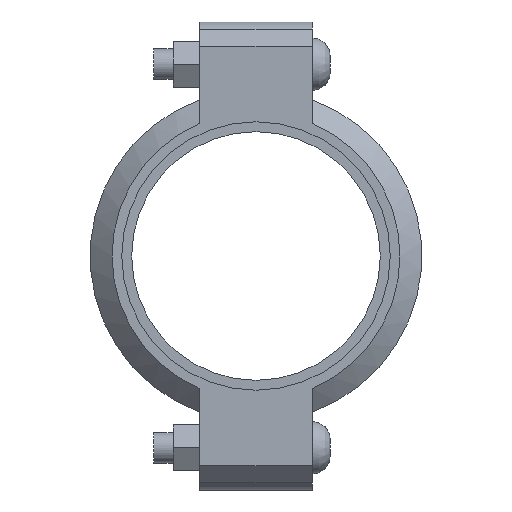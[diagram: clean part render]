
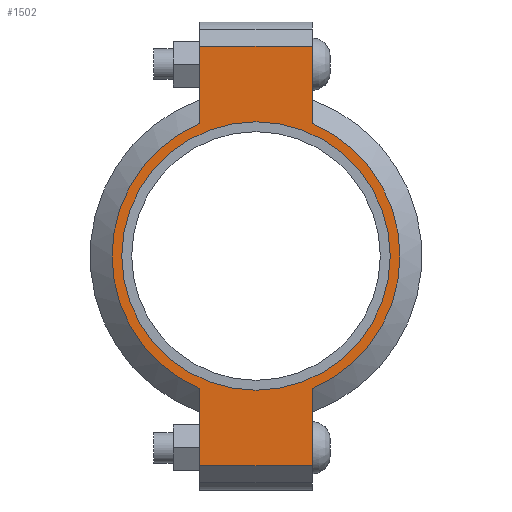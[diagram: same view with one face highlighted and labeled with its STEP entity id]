
A CAD part, left-side view. The second image highlights one B-rep face of the part: STEP entity #1502.
In plain terms, the highlighted planar face has unit normal (-1, 0, 0) as drawn and (0, 0, 1) by its records, which use the part's own axes.
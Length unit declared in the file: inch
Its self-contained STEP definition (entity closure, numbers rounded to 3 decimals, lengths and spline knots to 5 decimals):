
#126=LINE('',#2621,#219);
#134=LINE('',#2657,#227);
#141=LINE('',#2678,#234);
#150=LINE('',#2710,#243);
#151=LINE('',#2714,#244);
#152=LINE('',#2716,#245);
#219=VECTOR('',#2145,0.3937);
#227=VECTOR('',#2161,0.3937);
#234=VECTOR('',#2180,0.3937);
#243=VECTOR('',#2205,0.3937);
#244=VECTOR('',#2210,0.3937);
#245=VECTOR('',#2211,0.3937);
#301=FACE_BOUND('',#479,.T.);
#373=FACE_OUTER_BOUND('',#478,.T.);
#478=EDGE_LOOP('',(#1243,#1244,#1245,#1246,#1247,#1248,#1249,#1250));
#479=EDGE_LOOP('',(#1251));
#551=CIRCLE('',#1721,2.75);
#577=CIRCLE('',#1780,2.95);
#578=CIRCLE('',#1781,2.95);
#643=VERTEX_POINT('',#2437);
#686=VERTEX_POINT('',#2618);
#687=VERTEX_POINT('',#2620);
#698=VERTEX_POINT('',#2652);
#699=VERTEX_POINT('',#2656);
#706=VERTEX_POINT('',#2675);
#707=VERTEX_POINT('',#2677);
#717=VERTEX_POINT('',#2713);
#718=VERTEX_POINT('',#2715);
#799=EDGE_CURVE('',#643,#643,#551,.T.);
#860=EDGE_CURVE('',#687,#686,#126,.T.);
#874=EDGE_CURVE('',#699,#698,#134,.T.);
#884=EDGE_CURVE('',#707,#706,#141,.T.);
#899=EDGE_CURVE('',#699,#686,#150,.T.);
#900=EDGE_CURVE('',#698,#707,#577,.T.);
#901=EDGE_CURVE('',#717,#706,#151,.T.);
#902=EDGE_CURVE('',#717,#718,#152,.T.);
#903=EDGE_CURVE('',#718,#687,#578,.T.);
#1243=ORIENTED_EDGE('',*,*,#899,.F.);
#1244=ORIENTED_EDGE('',*,*,#874,.T.);
#1245=ORIENTED_EDGE('',*,*,#900,.T.);
#1246=ORIENTED_EDGE('',*,*,#884,.T.);
#1247=ORIENTED_EDGE('',*,*,#901,.F.);
#1248=ORIENTED_EDGE('',*,*,#902,.T.);
#1249=ORIENTED_EDGE('',*,*,#903,.T.);
#1250=ORIENTED_EDGE('',*,*,#860,.T.);
#1251=ORIENTED_EDGE('',*,*,#799,.T.);
#1344=PLANE('',#1779);
#1502=ADVANCED_FACE('',(#373,#301),#1344,.T.);
#1721=AXIS2_PLACEMENT_3D('',#2439,#2021,#2022);
#1779=AXIS2_PLACEMENT_3D('',#2711,#2206,#2207);
#1780=AXIS2_PLACEMENT_3D('',#2712,#2208,#2209);
#1781=AXIS2_PLACEMENT_3D('',#2717,#2212,#2213);
#2021=DIRECTION('center_axis',(0.,0.,-1.));
#2022=DIRECTION('ref_axis',(-1.,0.,0.));
#2145=DIRECTION('',(-1.,0.,0.));
#2161=DIRECTION('',(1.,0.,0.));
#2180=DIRECTION('',(1.,0.,0.));
#2205=DIRECTION('',(0.,1.,0.));
#2206=DIRECTION('center_axis',(0.,0.,1.));
#2207=DIRECTION('ref_axis',(1.,0.,0.));
#2208=DIRECTION('center_axis',(0.,0.,1.));
#2209=DIRECTION('ref_axis',(-1.,0.,0.));
#2210=DIRECTION('',(0.,-1.,0.));
#2211=DIRECTION('',(-1.,0.,0.));
#2212=DIRECTION('center_axis',(0.,0.,1.));
#2213=DIRECTION('ref_axis',(-1.,0.,0.));
#2437=CARTESIAN_POINT('',(2.75,0.,1.065));
#2439=CARTESIAN_POINT('Origin',(0.,0.,1.065));
#2618=CARTESIAN_POINT('',(-4.295,1.15,1.065));
#2620=CARTESIAN_POINT('',(-2.71662,1.15,1.065));
#2621=CARTESIAN_POINT('',(-4.795,1.15,1.065));
#2652=CARTESIAN_POINT('',(-2.71662,-1.15,1.065));
#2656=CARTESIAN_POINT('',(-4.295,-1.15,1.065));
#2657=CARTESIAN_POINT('',(4.795,-1.15,1.065));
#2675=CARTESIAN_POINT('',(4.295,-1.15,1.065));
#2677=CARTESIAN_POINT('',(2.71662,-1.15,1.065));
#2678=CARTESIAN_POINT('',(4.795,-1.15,1.065));
#2710=CARTESIAN_POINT('',(-4.295,0.575,1.065));
#2711=CARTESIAN_POINT('Origin',(0.,0.,1.065));
#2712=CARTESIAN_POINT('Origin',(0.,0.,1.065));
#2713=CARTESIAN_POINT('',(4.295,1.15,1.065));
#2714=CARTESIAN_POINT('',(4.295,-0.575,1.065));
#2715=CARTESIAN_POINT('',(2.71662,1.15,1.065));
#2716=CARTESIAN_POINT('',(-4.795,1.15,1.065));
#2717=CARTESIAN_POINT('Origin',(0.,0.,1.065));
